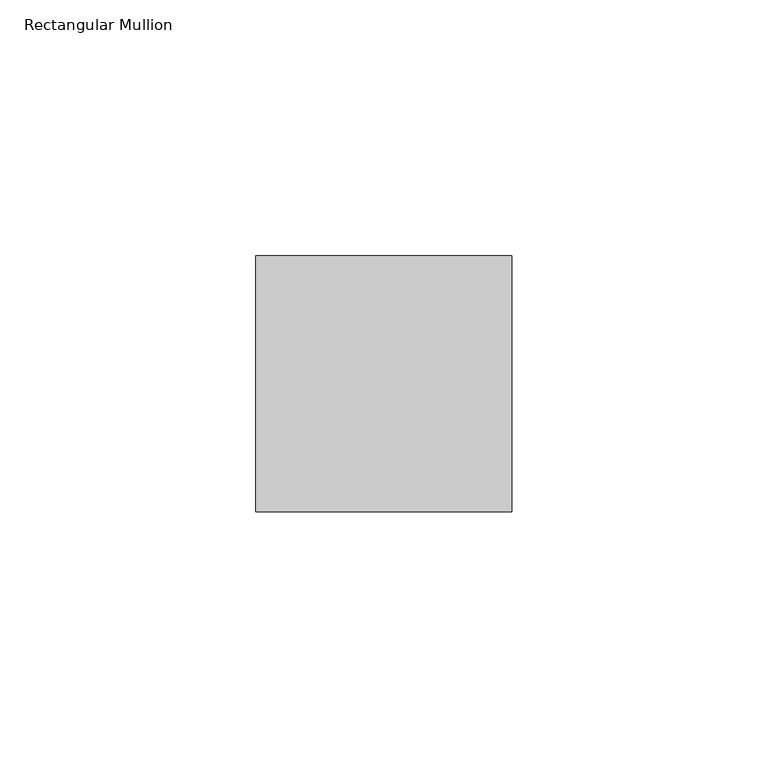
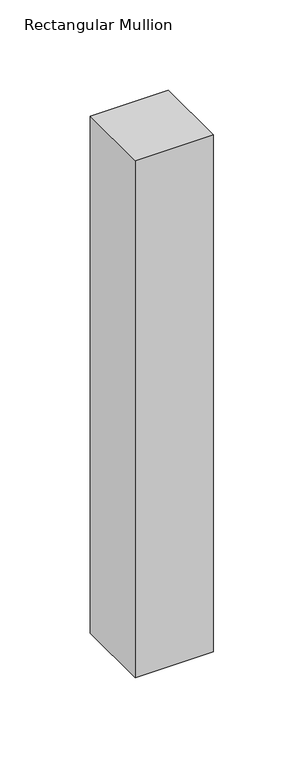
"""IFC4 building model written with IfcOpenShell, lengths in millimetres: member geometry, Rectangular Mullion : RSen_21_CWM_support profile 50x50 - right_gen_duco projects."""

from ifc_helpers import new_model, si_unit, frame, origin, place, context, project, spatial, polyline, outline, extrude, source, transform, mapped, element, save


def rectangular_mullion_98250b89(model_context):
    return source(origin(), model_context, "Body", "SweptSolid", [
        extrude(outline(polyline([(-50.0, 1.0), (0.0, 1.0), (0.0, -49.0), (-50.0, -49.0), (-50.0, 1.0)])), frame((0.0, 0.0, -350.0), z_axis=(0.0, 0.0, 1.0), x_axis=(1.0, 0.0, 0.0)), (0.0, 0.0, 1.0), 350.0),
    ])


if __name__ == "__main__":
    model = new_model("IFC4")
    model_context = context("Model", 3, world=origin())
    ifc_project = project(units=[si_unit("LENGTHUNIT", "METRE", prefix="MILLI")], contexts=[model_context])
    site = spatial("IfcSite", under=ifc_project)
    building = spatial("IfcBuilding", under=site)
    placement = place(None, origin())
    rectangular_mullion_shape = rectangular_mullion_98250b89(model_context)
    element("IfcMember", 1, ObjectType="Rectangular Mullion : RSen_21_CWM_support profile 50x50 - right_gen_duco projects", at=placement, inside=building, context=model_context, shape_type="MappedRepresentation", body=[
        mapped(rectangular_mullion_shape, transform((0.0, 0.0, 0.0), x_axis=(1.0, 0.0, 0.0), y_axis=(0.0, 1.0, 0.0), z_axis=(0.0, 0.0, 1.0))),
    ])
    save(model, "model.ifc")
